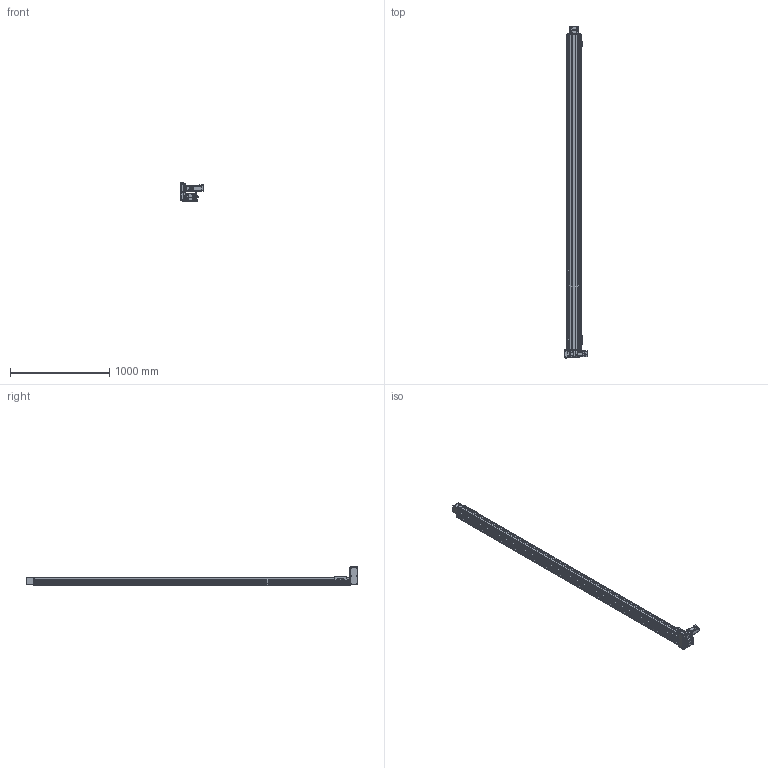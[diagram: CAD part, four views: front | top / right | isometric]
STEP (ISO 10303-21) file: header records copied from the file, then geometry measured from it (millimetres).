
FILE_DESCRIPTION(/* description */ (''),/* implementation_level */ '2;1');
FILE_NAME(/* name */ '\\192.168.0.160\disk1\HAN SHIN Master\B-설계부문\C-표준\B-2024년\BC02-표준도면\+로봇 개선표준도면\홈페이지 표준 도면\홈페이지 최종 작업 폴더\3D\HSB\HSB125\HSB125-UL4G-N-3000-R.stp',/* time_stamp */ '2025-06-19T11:08:19+09:00',/* author */ ('user'),/* organization */ (''),/* preprocessor_version */ 'ST-DEVELOPER v18.1',/* originating_system */ 'Autodesk Inventor 2022',/* authorisation */ '');
FILE_SCHEMA (('AUTOMOTIVE_DESIGN { 1 0 10303 214 3 1 1 }'));
Products named in the file (32): HSB125-UL4G-N-0500-R; BASE; REAR COVER; HSB125 FORNT HOUSUNG (Connecting); HSB160 SHAFT-1; HSB160 BEARING OVER; NSK_6205; HSB160 REAR SHAFT-2; REAR SHAFT--2; HSB125 REAR HOUSUNG; TENSION PLATE; HSB160 ARC COVER; UPCOVER; hsr_ftht_A-M6F_grease_nipple_joint; HR120 SENSOR DOG; NIPPLE CAP(신규); 6003ZZ; HSB125 TABLE (TEST); HG90STOPPER - 17L; HSB125 END COVER; SIDE COVER; SENSOR BRK(EE-SX674A); EE_SX674A; PGX62-H-1_3; hg-kr43_; HSB125 U; HSB125 D MOTOR PLATE; MOTOR PLATE - 200W; HSB125 D BELT COVER; HR160 ACRYL COVER - 1; HR160 ACRYL COVER - 1_1; HR160 ACRYL COVER - 1_2
Assembly tree (53 placements, depth 3):
  HSB125-UL4G-N-0500-R
    BASE
    REAR COVER  x2
    HSB125 FORNT HOUSUNG (Connecting)
    HSB160 SHAFT-1
    HSB160 BEARING OVER
    NSK_6205  x2
    HSB160 REAR SHAFT-2
    REAR SHAFT--2
    HSB125 REAR HOUSUNG
    TENSION PLATE  x2
    HSB160 ARC COVER  x4
    HG90STOPPER - 17L  x4
    UPCOVER
    NIPPLE CAP(신규)  x4
    hsr_ftht_A-M6F_grease_nipple_joint  x4
    SENSOR BRK(EE-SX674A)  x3
    EE_SX674A  x3
    HR120 SENSOR DOG
    6003ZZ  x2
    HSB125 TABLE (TEST)
    HSB125 END COVER
    SIDE COVER  x2
    PGX62-H-1_3
    hg-kr43_
    HSB125 U
      HSB125 D MOTOR PLATE
      MOTOR PLATE - 200W
      HSB125 D BELT COVER
      HR160 ACRYL COVER - 1
      HR160 ACRYL COVER - 1_1  x2
      HR160 ACRYL COVER - 1_2
Bounding box: 233.3 x 3350.5 x 185.5 mm (x, y, z)
Volume: 10867232.8 mm3; surface area: 3751185 mm2
Topology: 117 solids, 117 shells, 6871 faces, 19175 edges, 12626 vertices
Faces by surface type: plane 4959, cylinder 1399, cone 353, sphere 72, torus 61, bspline 27
Full cylindrical faces by diameter (mm): 2.459 x76, 3 x20, 3.242 x52, 3.3 x5, 3.4 x42, 3.5 x6, 4 x5, 4.134 x38, 4.2 x10, 4.5 x41, 4.917 x32, 5 x18, 5.5 x55, 5.6 x4, 5.8 x4, 5.9 x8, 6 x12, 6.5 x8, 6.647 x24, 7 x1, 7.5 x24, 8 x4, 8.5 x4, 9 x4, 9.2 x4, 9.5 x27, 12 x2, 14 x1, 14.2 x1, 15 x4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
Entity records: 158016 total; most frequent: CARTESIAN_POINT 31340, ORIENTED_EDGE 26238, DIRECTION 25307, EDGE_CURVE 13119, LINE 9685, VECTOR 9685, VERTEX_POINT 8721, AXIS2_PLACEMENT_3D 7811
